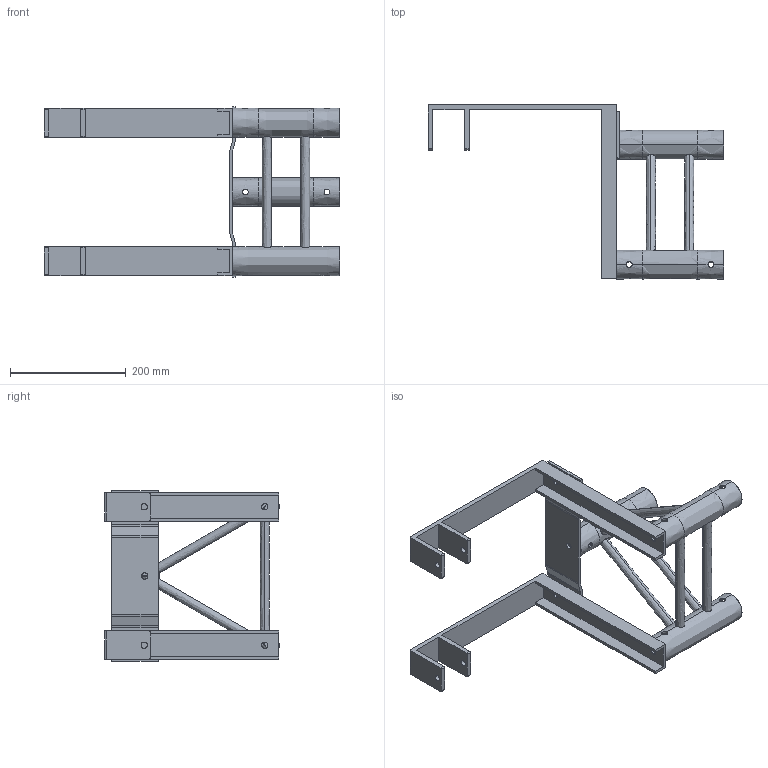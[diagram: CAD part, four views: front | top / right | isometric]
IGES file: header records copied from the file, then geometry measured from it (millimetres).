
Start section: SolidWorks IGES file using analytic representation for surfaces
Global section: file name: K:\BIBLIO\asd_biblio\Accessoires\L290CXA\L290CXA.IGS; native system: SolidWorks 2009; preprocessor: SolidWorks 2009; author: des3; date: 091023.165159; units: millimetre
Bounding box: 511 x 301 x 295 mm (x, y, z)
Surface area: 540904 mm2 (no closed solid volume)
Topology: 0 solids, 0 shells, 247 faces, 8270 edges, 8270 vertices
Faces by surface type: revolution 180, bspline 67
